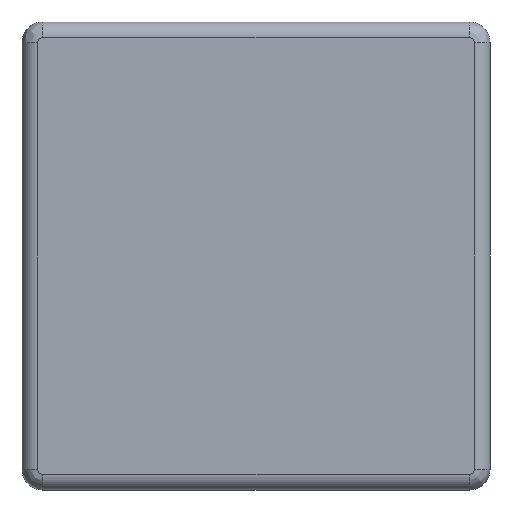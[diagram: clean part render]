
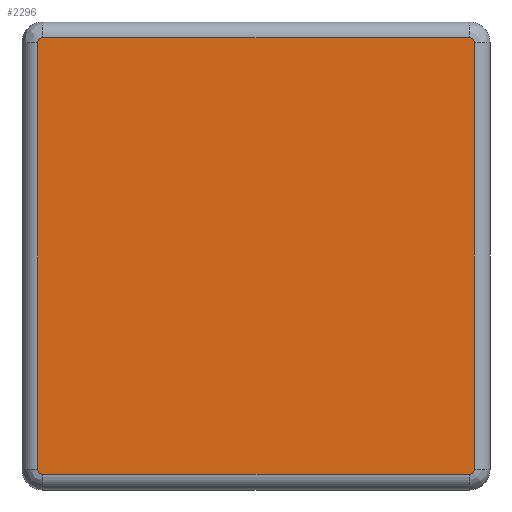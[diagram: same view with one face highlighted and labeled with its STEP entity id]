
A CAD part, front view. The second image highlights one B-rep face of the part: STEP entity #2296.
In plain terms, the highlighted planar face has unit normal (0, -1, 0).
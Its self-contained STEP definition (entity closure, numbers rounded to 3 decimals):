
#84=PLANE('',#2488);
#154=FACE_OUTER_BOUND('',#284,.T.);
#284=EDGE_LOOP('',(#1616,#1617,#1618,#1619,#1620,#1621,#1622,#1623));
#447=CIRCLE('',#2489,1.);
#448=CIRCLE('',#2490,1.);
#449=CIRCLE('',#2491,1.);
#450=CIRCLE('',#2492,1.);
#599=LINE('',#3654,#771);
#600=LINE('',#3658,#772);
#601=LINE('',#3662,#773);
#602=LINE('',#3665,#774);
#771=VECTOR('',#2872,1000.);
#772=VECTOR('',#2875,1000.);
#773=VECTOR('',#2878,1000.);
#774=VECTOR('',#2881,1000.);
#999=VERTEX_POINT('',#3650);
#1000=VERTEX_POINT('',#3651);
#1001=VERTEX_POINT('',#3653);
#1002=VERTEX_POINT('',#3655);
#1003=VERTEX_POINT('',#3657);
#1004=VERTEX_POINT('',#3659);
#1005=VERTEX_POINT('',#3661);
#1006=VERTEX_POINT('',#3663);
#1244=EDGE_CURVE('',#999,#1000,#447,.T.);
#1245=EDGE_CURVE('',#1001,#999,#599,.T.);
#1246=EDGE_CURVE('',#1002,#1001,#448,.T.);
#1247=EDGE_CURVE('',#1003,#1002,#600,.T.);
#1248=EDGE_CURVE('',#1004,#1003,#449,.T.);
#1249=EDGE_CURVE('',#1005,#1004,#601,.T.);
#1250=EDGE_CURVE('',#1006,#1005,#450,.T.);
#1251=EDGE_CURVE('',#1000,#1006,#602,.T.);
#1616=ORIENTED_EDGE('',*,*,#1244,.F.);
#1617=ORIENTED_EDGE('',*,*,#1245,.F.);
#1618=ORIENTED_EDGE('',*,*,#1246,.F.);
#1619=ORIENTED_EDGE('',*,*,#1247,.F.);
#1620=ORIENTED_EDGE('',*,*,#1248,.F.);
#1621=ORIENTED_EDGE('',*,*,#1249,.F.);
#1622=ORIENTED_EDGE('',*,*,#1250,.F.);
#1623=ORIENTED_EDGE('',*,*,#1251,.F.);
#2296=ADVANCED_FACE('',(#154),#84,.F.);
#2488=AXIS2_PLACEMENT_3D('',#3649,#2868,#2869);
#2489=AXIS2_PLACEMENT_3D('',#3652,#2870,#2871);
#2490=AXIS2_PLACEMENT_3D('',#3656,#2873,#2874);
#2491=AXIS2_PLACEMENT_3D('',#3660,#2876,#2877);
#2492=AXIS2_PLACEMENT_3D('',#3664,#2879,#2880);
#2868=DIRECTION('center_axis',(0.,1.,0.));
#2869=DIRECTION('ref_axis',(0.,0.,1.));
#2870=DIRECTION('center_axis',(0.,1.,0.));
#2871=DIRECTION('ref_axis',(0.,0.,-1.));
#2872=DIRECTION('',(1.,0.,0.));
#2873=DIRECTION('center_axis',(0.,1.,0.));
#2874=DIRECTION('ref_axis',(0.,0.,
-1.));
#2875=DIRECTION('',(0.,0.,1.));
#2876=DIRECTION('center_axis',(0.,1.,0.));
#2877=DIRECTION('ref_axis',(0.,0.,
-1.));
#2878=DIRECTION('',(-1.,0.,0.));
#2879=DIRECTION('center_axis',(0.,1.,0.));
#2880=DIRECTION('ref_axis',(1.,0.,0.));
#2881=DIRECTION('',(0.,0.,-1.));
#3649=CARTESIAN_POINT('Origin',(0.,0.,0.));
#3650=CARTESIAN_POINT('',(40.9,0.,41.9));
#3651=CARTESIAN_POINT('',(41.9,0.,40.9));
#3652=CARTESIAN_POINT('Origin',(40.9,0.,40.9));
#3653=CARTESIAN_POINT('',(-40.9,0.,41.9));
#3654=CARTESIAN_POINT('',(0.,0.,41.9));
#3655=CARTESIAN_POINT('',(-41.9,0.,40.9));
#3656=CARTESIAN_POINT('Origin',(-40.9,0.,
40.9));
#3657=CARTESIAN_POINT('',(-41.9,0.,-40.9));
#3658=CARTESIAN_POINT('',(-41.9,0.,0.));
#3659=CARTESIAN_POINT('',(-40.9,0.,-41.9));
#3660=CARTESIAN_POINT('Origin',(-40.9,0.,
-40.9));
#3661=CARTESIAN_POINT('',(40.9,0.,-41.9));
#3662=CARTESIAN_POINT('',(0.,0.,-41.9));
#3663=CARTESIAN_POINT('',(41.9,0.,-40.9));
#3664=CARTESIAN_POINT('Origin',(40.9,0.,-40.9));
#3665=CARTESIAN_POINT('',(41.9,0.,0.));
